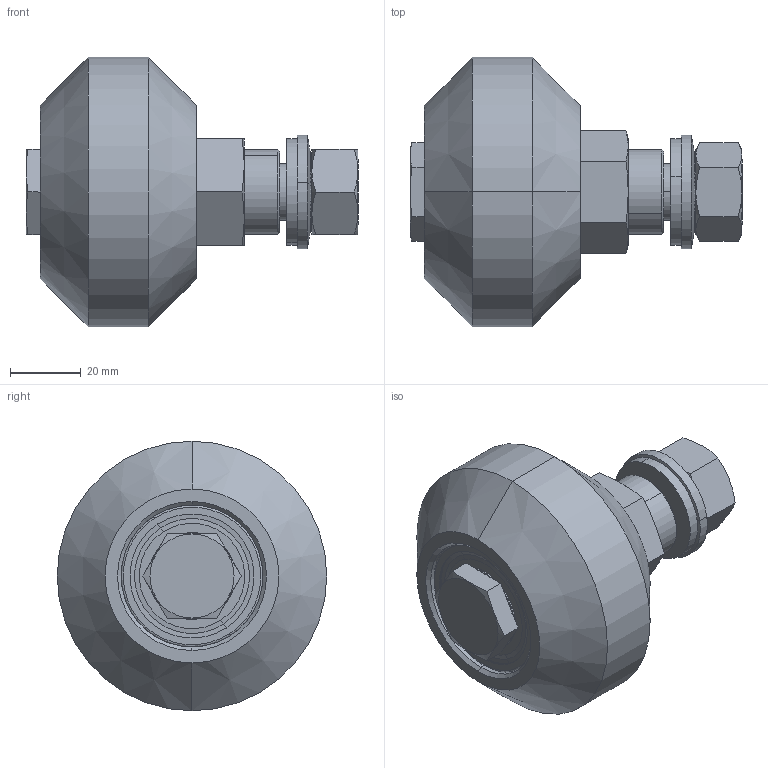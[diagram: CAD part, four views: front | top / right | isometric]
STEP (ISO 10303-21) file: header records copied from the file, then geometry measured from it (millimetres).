
FILE_DESCRIPTION (( 'STEP AP203' ), '1' );
FILE_NAME ('084.530.006.STEP', '2015-05-06T06:45:51', ( '' ), ( '' ), 'SwSTEP 2.0', 'SolidWorks 2012', '' );
FILE_SCHEMA (( 'CONFIG_CONTROL_DESIGN' ));
Length unit declared in the file: millimetre
Products named in the file (1): 084.530.006
Bounding box: 93.6 x 76 x 76 mm (x, y, z)
Surface area: 28871.4 mm2 (no closed solid volume)
Topology: 0 solids, 13 shells, 140 faces, 602 edges, 473 vertices
Faces by surface type: plane 55, cone 47, cylinder 24, bspline 14
Entity records: 6715 total; most frequent: CARTESIAN_POINT 2048, DIRECTION 953, ORIENTED_EDGE 839, EDGE_CURVE 602, VERTEX_POINT 473, AXIS2_PLACEMENT_3D 406, CIRCLE 279, B_SPLINE_CURVE_WITH_KNOTS 176
